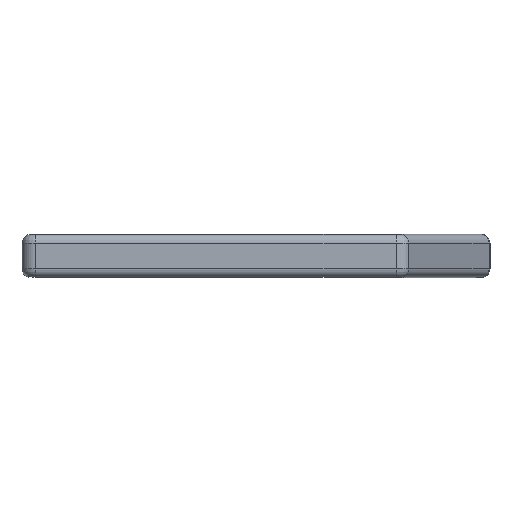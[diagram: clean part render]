
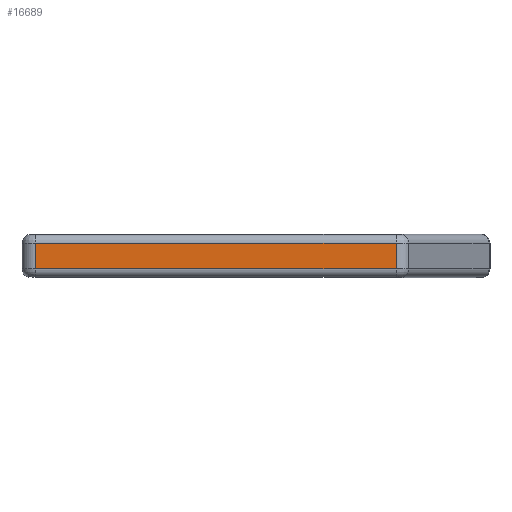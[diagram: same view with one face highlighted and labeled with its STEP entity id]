
A CAD part, left-side view. The second image highlights one B-rep face of the part: STEP entity #16689.
In plain terms, the highlighted planar face has unit normal (-1, 0, 0).
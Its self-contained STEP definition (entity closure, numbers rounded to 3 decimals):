
#680 = CYLINDRICAL_SURFACE('',#681,3.);
#681 = AXIS2_PLACEMENT_3D('',#682,#683,#684);
#682 = CARTESIAN_POINT('',(1.,19.054,0.));
#683 = DIRECTION('',(0.,0.,1.));
#684 = DIRECTION('',(-1.,0.,0.));
#1811 = CYLINDRICAL_SURFACE('',#1812,2.);
#1812 = AXIS2_PLACEMENT_3D('',#1813,#1814,#1815);
#1813 = CARTESIAN_POINT('',(0.,100.,7.7));
#1814 = DIRECTION('',(0.,-1.,0.));
#1815 = DIRECTION('',(-1.,-0.,0.));
#5093 = EDGE_CURVE('',#5094,#5096,#5098,.T.);
#5094 = VERTEX_POINT('',#5095);
#5095 = CARTESIAN_POINT('',(-2.,19.054,2.));
#5096 = VERTEX_POINT('',#5097);
#5097 = CARTESIAN_POINT('',(-2.,19.054,7.7));
#5098 = SURFACE_CURVE('',#5099,(#5103,#5110),.PCURVE_S1.);
#5099 = LINE('',#5100,#5101);
#5100 = CARTESIAN_POINT('',(-2.,19.054,0.));
#5101 = VECTOR('',#5102,1.);
#5102 = DIRECTION('',(0.,0.,1.));
#5103 = PCURVE('',#680,#5104);
#5104 = DEFINITIONAL_REPRESENTATION('',(#5105),#5109);
#5105 = LINE('',#5106,#5107);
#5106 = CARTESIAN_POINT('',(0.,0.));
#5107 = VECTOR('',#5108,1.);
#5108 = DIRECTION('',(0.,1.));
#5109 = ( GEOMETRIC_REPRESENTATION_CONTEXT(2) 
PARAMETRIC_REPRESENTATION_CONTEXT() REPRESENTATION_CONTEXT('2D SPACE',''
  ) );
#5110 = PCURVE('',#5111,#5116);
#5111 = PLANE('',#5112);
#5112 = AXIS2_PLACEMENT_3D('',#5113,#5114,#5115);
#5113 = CARTESIAN_POINT('',(-2.,103.,0.));
#5114 = DIRECTION('',(1.,0.,-0.));
#5115 = DIRECTION('',(0.,-1.,0.));
#5116 = DEFINITIONAL_REPRESENTATION('',(#5117),#5121);
#5117 = LINE('',#5118,#5119);
#5118 = CARTESIAN_POINT('',(83.946,0.));
#5119 = VECTOR('',#5120,1.);
#5120 = DIRECTION('',(0.,-1.));
#5121 = ( GEOMETRIC_REPRESENTATION_CONTEXT(2) 
PARAMETRIC_REPRESENTATION_CONTEXT() REPRESENTATION_CONTEXT('2D SPACE',''
  ) );
#5187 = CYLINDRICAL_SURFACE('',#5188,2.);
#5188 = AXIS2_PLACEMENT_3D('',#5189,#5190,#5191);
#5189 = CARTESIAN_POINT('',(0.,100.,2.));
#5190 = DIRECTION('',(0.,-1.,0.));
#5191 = DIRECTION('',(-0.,-0.,-1.));
#10061 = VERTEX_POINT('',#10062);
#10062 = CARTESIAN_POINT('',(-2.,100.,7.7));
#10084 = EDGE_CURVE('',#10061,#5096,#10085,.T.);
#10085 = SURFACE_CURVE('',#10086,(#10090,#10097),.PCURVE_S1.);
#10086 = LINE('',#10087,#10088);
#10087 = CARTESIAN_POINT('',(-2.,100.,7.7));
#10088 = VECTOR('',#10089,1.);
#10089 = DIRECTION('',(0.,-1.,0.));
#10090 = PCURVE('',#1811,#10091);
#10091 = DEFINITIONAL_REPRESENTATION('',(#10092),#10096);
#10092 = LINE('',#10093,#10094);
#10093 = CARTESIAN_POINT('',(-0.,0.));
#10094 = VECTOR('',#10095,1.);
#10095 = DIRECTION('',(-0.,1.));
#10096 = ( GEOMETRIC_REPRESENTATION_CONTEXT(2) 
PARAMETRIC_REPRESENTATION_CONTEXT() REPRESENTATION_CONTEXT('2D SPACE',''
  ) );
#10097 = PCURVE('',#5111,#10098);
#10098 = DEFINITIONAL_REPRESENTATION('',(#10099),#10103);
#10099 = LINE('',#10100,#10101);
#10100 = CARTESIAN_POINT('',(3.,-7.7));
#10101 = VECTOR('',#10102,1.);
#10102 = DIRECTION('',(1.,0.));
#10103 = ( GEOMETRIC_REPRESENTATION_CONTEXT(2) 
PARAMETRIC_REPRESENTATION_CONTEXT() REPRESENTATION_CONTEXT('2D SPACE',''
  ) );
#10145 = CYLINDRICAL_SURFACE('',#10146,3.);
#10146 = AXIS2_PLACEMENT_3D('',#10147,#10148,#10149);
#10147 = CARTESIAN_POINT('',(1.,100.,0.));
#10148 = DIRECTION('',(0.,0.,1.));
#10149 = DIRECTION('',(-0.,1.,0.));
#16689 = ADVANCED_FACE('',(#16690),#5111,.F.);
#16690 = FACE_BOUND('',#16691,.F.);
#16691 = EDGE_LOOP('',(#16692,#16715,#16716,#16717));
#16692 = ORIENTED_EDGE('',*,*,#16693,.T.);
#16693 = EDGE_CURVE('',#16694,#10061,#16696,.T.);
#16694 = VERTEX_POINT('',#16695);
#16695 = CARTESIAN_POINT('',(-2.,100.,2.));
#16696 = SURFACE_CURVE('',#16697,(#16701,#16708),.PCURVE_S1.);
#16697 = LINE('',#16698,#16699);
#16698 = CARTESIAN_POINT('',(-2.,100.,0.));
#16699 = VECTOR('',#16700,1.);
#16700 = DIRECTION('',(0.,0.,1.));
#16701 = PCURVE('',#5111,#16702);
#16702 = DEFINITIONAL_REPRESENTATION('',(#16703),#16707);
#16703 = LINE('',#16704,#16705);
#16704 = CARTESIAN_POINT('',(3.,0.));
#16705 = VECTOR('',#16706,1.);
#16706 = DIRECTION('',(0.,-1.));
#16707 = ( GEOMETRIC_REPRESENTATION_CONTEXT(2) 
PARAMETRIC_REPRESENTATION_CONTEXT() REPRESENTATION_CONTEXT('2D SPACE',''
  ) );
#16708 = PCURVE('',#10145,#16709);
#16709 = DEFINITIONAL_REPRESENTATION('',(#16710),#16714);
#16710 = LINE('',#16711,#16712);
#16711 = CARTESIAN_POINT('',(1.571,0.));
#16712 = VECTOR('',#16713,1.);
#16713 = DIRECTION('',(0.,1.));
#16714 = ( GEOMETRIC_REPRESENTATION_CONTEXT(2) 
PARAMETRIC_REPRESENTATION_CONTEXT() REPRESENTATION_CONTEXT('2D SPACE',''
  ) );
#16715 = ORIENTED_EDGE('',*,*,#10084,.T.);
#16716 = ORIENTED_EDGE('',*,*,#5093,.F.);
#16717 = ORIENTED_EDGE('',*,*,#16718,.F.);
#16718 = EDGE_CURVE('',#16694,#5094,#16719,.T.);
#16719 = SURFACE_CURVE('',#16720,(#16724,#16731),.PCURVE_S1.);
#16720 = LINE('',#16721,#16722);
#16721 = CARTESIAN_POINT('',(-2.,100.,2.));
#16722 = VECTOR('',#16723,1.);
#16723 = DIRECTION('',(0.,-1.,0.));
#16724 = PCURVE('',#5111,#16725);
#16725 = DEFINITIONAL_REPRESENTATION('',(#16726),#16730);
#16726 = LINE('',#16727,#16728);
#16727 = CARTESIAN_POINT('',(3.,-2.));
#16728 = VECTOR('',#16729,1.);
#16729 = DIRECTION('',(1.,0.));
#16730 = ( GEOMETRIC_REPRESENTATION_CONTEXT(2) 
PARAMETRIC_REPRESENTATION_CONTEXT() REPRESENTATION_CONTEXT('2D SPACE',''
  ) );
#16731 = PCURVE('',#5187,#16732);
#16732 = DEFINITIONAL_REPRESENTATION('',(#16733),#16737);
#16733 = LINE('',#16734,#16735);
#16734 = CARTESIAN_POINT('',(-1.571,0.));
#16735 = VECTOR('',#16736,1.);
#16736 = DIRECTION('',(-0.,1.));
#16737 = ( GEOMETRIC_REPRESENTATION_CONTEXT(2) 
PARAMETRIC_REPRESENTATION_CONTEXT() REPRESENTATION_CONTEXT('2D SPACE',''
  ) );
